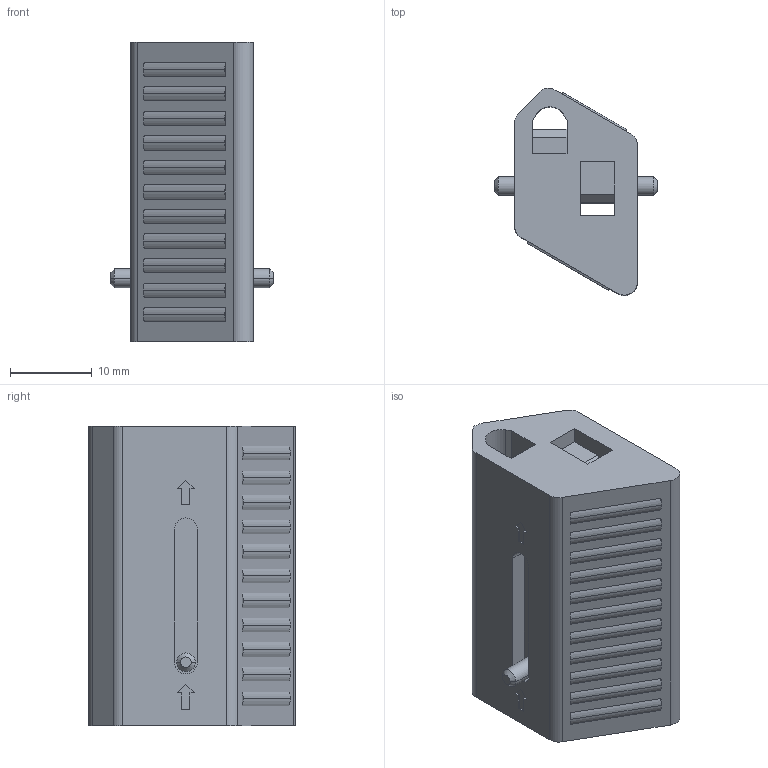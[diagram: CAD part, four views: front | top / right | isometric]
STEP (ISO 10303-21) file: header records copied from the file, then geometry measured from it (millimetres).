
FILE_DESCRIPTION (( 'STEP AP214' ), '1' );
FILE_NAME ('IYP-30R.STEP', '2020-02-27T09:21:50', ( '' ), ( '' ), 'SwSTEP 2.0', 'SolidWorks 2019', '' );
FILE_SCHEMA (( 'AUTOMOTIVE_DESIGN' ));
Length unit declared in the file: millimetre
Products named in the file (1): IYP-30R
Bounding box: 20 x 25.3 x 36.6 mm (x, y, z)
Volume: 9855.2 mm3; surface area: 4194.8 mm2
Topology: 1 solids, 1 shells, 163 faces, 389 edges, 258 vertices
Faces by surface type: plane 112, cylinder 47, cone 4
Entity records: 4751 total; most frequent: DIRECTION 815, CARTESIAN_POINT 811, ORIENTED_EDGE 778, EDGE_CURVE 389, LINE 291, VECTOR 291, AXIS2_PLACEMENT_3D 262, VERTEX_POINT 258
